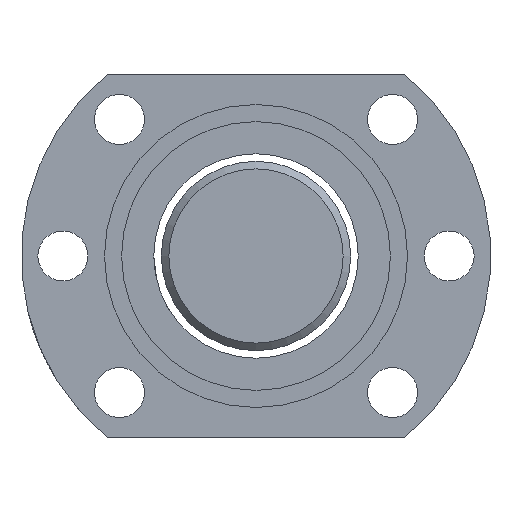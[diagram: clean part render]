
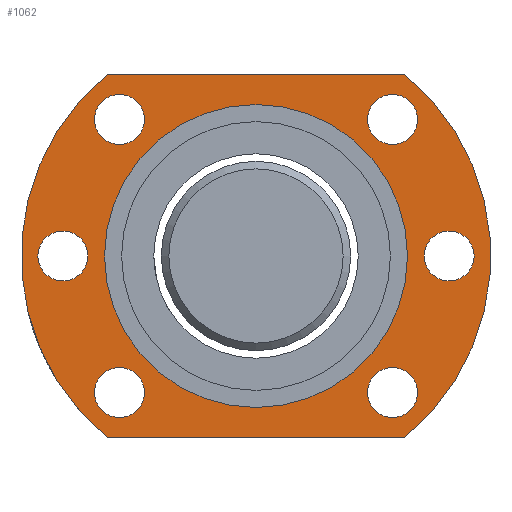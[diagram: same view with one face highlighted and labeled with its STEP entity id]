
A CAD part, left-side view. The second image highlights one B-rep face of the part: STEP entity #1062.
In plain terms, the highlighted planar face has unit normal (-1, 0, 0).
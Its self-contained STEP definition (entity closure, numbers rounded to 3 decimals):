
#100 = CARTESIAN_POINT ( 'NONE',  ( -0.225, -55.152, -6.982 ) ) ;
#113 = EDGE_LOOP ( 'NONE', ( #776 ) ) ;
#139 = CIRCLE ( 'NONE', #1318, 3.3 ) ;
#158 = CARTESIAN_POINT ( 'NONE',  ( -0.225, -55.152, -10.282 ) ) ;
#191 = CARTESIAN_POINT ( 'NONE',  ( -0.225, -19.089, 25.78 ) ) ;
#241 = DIRECTION ( 'NONE',  ( -1., 0., 0. ) ) ;
#248 = CIRCLE ( 'NONE', #2361, 3.3 ) ;
#269 = ORIENTED_EDGE ( 'NONE', *, *, #2424, .T. ) ;
#273 = EDGE_LOOP ( 'NONE', ( #269 ) ) ;
#282 = DIRECTION ( 'NONE',  ( 0., 0., -1. ) ) ;
#345 = ORIENTED_EDGE ( 'NONE', *, *, #1882, .F. ) ;
#347 = DIRECTION ( 'NONE',  ( 0., 0., 1. ) ) ;
#399 = EDGE_CURVE ( 'NONE', #1193, #1193, #1105, .T. ) ;
#463 = FACE_BOUND ( 'NONE', #1265, .T. ) ;
#467 = VERTEX_POINT ( 'NONE', #2119 ) ;
#587 = DIRECTION ( 'NONE',  ( -1., 0., 0. ) ) ;
#615 = AXIS2_PLACEMENT_3D ( 'NONE', #158, #1131, #729 ) ;
#653 = FACE_OUTER_BOUND ( 'NONE', #1496, .T. ) ;
#655 = DIRECTION ( 'NONE',  ( 0., 0., -1. ) ) ;
#678 = DIRECTION ( 'NONE',  ( -1., 0., 0. ) ) ;
#685 = CARTESIAN_POINT ( 'NONE',  ( -0.225, -37.121, -12.251 ) ) ;
#696 = EDGE_CURVE ( 'NONE', #1215, #1215, #2243, .T. ) ;
#705 = EDGE_CURVE ( 'NONE', #844, #844, #248, .T. ) ;
#718 = EDGE_CURVE ( 'NONE', #1586, #1586, #1603, .T. ) ;
#729 = DIRECTION ( 'NONE',  ( 0., 0., 1. ) ) ;
#750 = EDGE_LOOP ( 'NONE', ( #1982 ) ) ;
#762 = ORIENTED_EDGE ( 'NONE', *, *, #1555, .F. ) ;
#776 = ORIENTED_EDGE ( 'NONE', *, *, #718, .T. ) ;
#780 = DIRECTION ( 'NONE',  ( 0., -1., 0. ) ) ;
#793 = CARTESIAN_POINT ( 'NONE',  ( -0.225, -11.621, 11.049 ) ) ;
#815 = AXIS2_PLACEMENT_3D ( 'NONE', #1737, #2106, #347 ) ;
#844 = VERTEX_POINT ( 'NONE', #793 ) ;
#852 = LINE ( 'NONE', #1765, #2501 ) ;
#853 = EDGE_LOOP ( 'NONE', ( #762 ) ) ;
#868 = FACE_BOUND ( 'NONE', #1597, .T. ) ;
#882 = ORIENTED_EDGE ( 'NONE', *, *, #1813, .T. ) ;
#981 = AXIS2_PLACEMENT_3D ( 'NONE', #2366, #1382, #1197 ) ;
#1008 = CARTESIAN_POINT ( 'NONE',  ( -0.225, -56.742, 31.749 ) ) ;
#1012 = DIRECTION ( 'NONE',  ( -1., 0., 0. ) ) ;
#1027 = DIRECTION ( 'NONE',  ( 0., 0., 1. ) ) ;
#1031 = CARTESIAN_POINT ( 'NONE',  ( -0.225, -37.121, 7.749 ) ) ;
#1055 = FACE_BOUND ( 'NONE', #1621, .T. ) ;
#1062 = ADVANCED_FACE ( 'NONE', ( #1251, #1844, #1055, #868, #1652, #653, #1804, #463 ), #1995, .T. ) ;
#1072 = ORIENTED_EDGE ( 'NONE', *, *, #399, .T. ) ;
#1105 = CIRCLE ( 'NONE', #981, 3.3 ) ;
#1110 = CIRCLE ( 'NONE', #2289, 20. ) ;
#1111 = CIRCLE ( 'NONE', #1530, 31. ) ;
#1128 = DIRECTION ( 'NONE',  ( 0., 0., 1. ) ) ;
#1131 = DIRECTION ( 'NONE',  ( 1., 0., 0. ) ) ;
#1152 = CIRCLE ( 'NONE', #615, 3.3 ) ;
#1193 = VERTEX_POINT ( 'NONE', #1427 ) ;
#1197 = DIRECTION ( 'NONE',  ( 0., 0., 1. ) ) ;
#1215 = VERTEX_POINT ( 'NONE', #1992 ) ;
#1220 = CARTESIAN_POINT ( 'NONE',  ( -0.225, -19.089, -10.282 ) ) ;
#1251 = FACE_BOUND ( 'NONE', #113, .T. ) ;
#1265 = EDGE_LOOP ( 'NONE', ( #1072 ) ) ;
#1283 = VERTEX_POINT ( 'NONE', #100 ) ;
#1318 = AXIS2_PLACEMENT_3D ( 'NONE', #1220, #1012, #1027 ) ;
#1357 = CARTESIAN_POINT ( 'NONE',  ( -0.225, -56.742, -16.251 ) ) ;
#1382 = DIRECTION ( 'NONE',  ( 1., 0., 0. ) ) ;
#1393 = AXIS2_PLACEMENT_3D ( 'NONE', #191, #2117, #2334 ) ;
#1426 = ORIENTED_EDGE ( 'NONE', *, *, #2308, .T. ) ;
#1427 = CARTESIAN_POINT ( 'NONE',  ( -0.225, -62.621, 11.049 ) ) ;
#1436 = VERTEX_POINT ( 'NONE', #1700 ) ;
#1445 = DIRECTION ( 'NONE',  ( 0., 0., 1. ) ) ;
#1461 = CARTESIAN_POINT ( 'NONE',  ( -0.225, -37.121, 7.749 ) ) ;
#1496 = EDGE_LOOP ( 'NONE', ( #1426, #1883, #882, #1612 ) ) ;
#1530 = AXIS2_PLACEMENT_3D ( 'NONE', #1461, #678, #2449 ) ;
#1555 = EDGE_CURVE ( 'NONE', #1873, #1873, #1110, .T. ) ;
#1566 = AXIS2_PLACEMENT_3D ( 'NONE', #1624, #2368, #1445 ) ;
#1567 = CARTESIAN_POINT ( 'NONE',  ( -0.225, -37.121, 7.749 ) ) ;
#1569 = CIRCLE ( 'NONE', #2367, 31. ) ;
#1586 = VERTEX_POINT ( 'NONE', #2349 ) ;
#1597 = EDGE_LOOP ( 'NONE', ( #1895 ) ) ;
#1603 = CIRCLE ( 'NONE', #815, 3.3 ) ;
#1612 = ORIENTED_EDGE ( 'NONE', *, *, #2495, .T. ) ;
#1615 = EDGE_CURVE ( 'NONE', #1436, #1748, #852, .T. ) ;
#1621 = EDGE_LOOP ( 'NONE', ( #345 ) ) ;
#1624 = CARTESIAN_POINT ( 'NONE',  ( -0.225, -37.121, 7.749 ) ) ;
#1630 = CARTESIAN_POINT ( 'NONE',  ( -0.225, -17.499, 31.749 ) ) ;
#1652 = FACE_BOUND ( 'NONE', #750, .T. ) ;
#1700 = CARTESIAN_POINT ( 'NONE',  ( -0.225, -17.499, -16.251 ) ) ;
#1737 = CARTESIAN_POINT ( 'NONE',  ( -0.225, -55.152, 25.78 ) ) ;
#1748 = VERTEX_POINT ( 'NONE', #1357 ) ;
#1765 = CARTESIAN_POINT ( 'NONE',  ( -0.225, -17.499, -16.251 ) ) ;
#1800 = DIRECTION ( 'NONE',  ( 0., 1., 0. ) ) ;
#1804 = FACE_BOUND ( 'NONE', #853, .T. ) ;
#1813 = EDGE_CURVE ( 'NONE', #1748, #467, #1569, .T. ) ;
#1833 = CARTESIAN_POINT ( 'NONE',  ( -0.225, -19.089, -6.982 ) ) ;
#1844 = FACE_BOUND ( 'NONE', #273, .T. ) ;
#1873 = VERTEX_POINT ( 'NONE', #685 ) ;
#1882 = EDGE_CURVE ( 'NONE', #2020, #2020, #139, .T. ) ;
#1883 = ORIENTED_EDGE ( 'NONE', *, *, #1615, .T. ) ;
#1895 = ORIENTED_EDGE ( 'NONE', *, *, #696, .F. ) ;
#1982 = ORIENTED_EDGE ( 'NONE', *, *, #705, .F. ) ;
#1983 = LINE ( 'NONE', #1008, #2045 ) ;
#1992 = CARTESIAN_POINT ( 'NONE',  ( -0.225, -19.089, 29.08 ) ) ;
#1995 = PLANE ( 'NONE',  #1566 ) ;
#2020 = VERTEX_POINT ( 'NONE', #1833 ) ;
#2045 = VECTOR ( 'NONE', #1800, 1000. ) ;
#2106 = DIRECTION ( 'NONE',  ( 1., 0., 0. ) ) ;
#2117 = DIRECTION ( 'NONE',  ( -1., 0., 0. ) ) ;
#2119 = CARTESIAN_POINT ( 'NONE',  ( -0.225, -56.742, 31.749 ) ) ;
#2209 = DIRECTION ( 'NONE',  ( -1., 0., 0. ) ) ;
#2243 = CIRCLE ( 'NONE', #1393, 3.3 ) ;
#2289 = AXIS2_PLACEMENT_3D ( 'NONE', #1031, #2209, #282 ) ;
#2308 = EDGE_CURVE ( 'NONE', #2487, #1436, #1111, .T. ) ;
#2323 = CARTESIAN_POINT ( 'NONE',  ( -0.225, -11.621, 7.749 ) ) ;
#2334 = DIRECTION ( 'NONE',  ( 0., 0., 1. ) ) ;
#2349 = CARTESIAN_POINT ( 'NONE',  ( -0.225, -55.152, 29.08 ) ) ;
#2361 = AXIS2_PLACEMENT_3D ( 'NONE', #2323, #587, #1128 ) ;
#2366 = CARTESIAN_POINT ( 'NONE',  ( -0.225, -62.621, 7.749 ) ) ;
#2367 = AXIS2_PLACEMENT_3D ( 'NONE', #1567, #241, #655 ) ;
#2368 = DIRECTION ( 'NONE',  ( -1., 0., 0. ) ) ;
#2424 = EDGE_CURVE ( 'NONE', #1283, #1283, #1152, .T. ) ;
#2449 = DIRECTION ( 'NONE',  ( 0., 0., -1. ) ) ;
#2487 = VERTEX_POINT ( 'NONE', #1630 ) ;
#2495 = EDGE_CURVE ( 'NONE', #467, #2487, #1983, .T. ) ;
#2501 = VECTOR ( 'NONE', #780, 1000. ) ;
